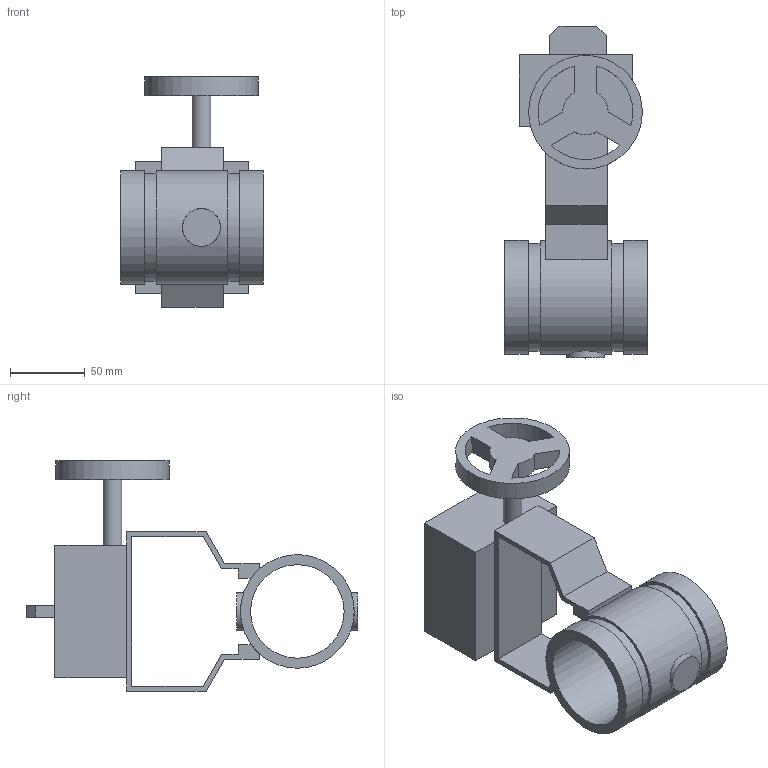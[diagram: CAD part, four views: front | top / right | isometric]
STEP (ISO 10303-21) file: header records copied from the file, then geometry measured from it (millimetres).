
FILE_DESCRIPTION(/* description */ ('VIC FIRELOCK BUTTERFLY VALVE SERIES 707 W/ WEATHERPROOF ACTUATOR FOR 300 PSI','CAx-IF Rec.Pracs.---Representation and Presentation of Product Manufacturing Information (PMI)---4.0---2014-10-13'),/* implementation_level */ '2;1');
FILE_NAME(/* name */ 'C:\Users\Vjadhav\AppData\Roaming\Autodesk\ApplicationPlugins\Back Up\Victaulic_FP-FireLock_Valve Butterfly_Series 707 (OGS)-Closed\Victaulic_FP-FireLock_Valve Butterfly_Series 707 (OGS)-Closed_02.5 (76.1) (65).stp',/* time_stamp */ '2020-07-22T11:31:24+05:00',/* author */ ('kkamble'),/* organization */ ('Victaulic'),/* preprocessor_version */ 'ST-DEVELOPER v17.2',/* originating_system */ 'Autodesk Inventor 2019',/* authorisation */ '');
FILE_SCHEMA (('AP242_MANAGED_MODEL_BASED_3D_ENGINEERING_MIM_LF { 1 0 10303 442 1 1 4 }'));
Length unit declared in the file: inch
Products named in the file (1): 707-02.5 (76.1)
Bounding box: 95.76 x 222.5 x 154.43 mm (x, y, z)
Volume: 559965.7 mm3; surface area: 111928 mm2
Topology: 1 solids, 1 shells, 71 faces, 194 edges, 133 vertices
Faces by surface type: plane 55, cylinder 16
Full cylindrical faces by diameter (mm): 12.624 x1, 25.4 x2, 62.713 x1, 72.263 x2, 76.2 x4
Entity records: 2591 total; most frequent: CARTESIAN_POINT 485, DIRECTION 407, ORIENTED_EDGE 388, EDGE_CURVE 194, LINE 141, VECTOR 141, VERTEX_POINT 133, AXIS2_PLACEMENT_3D 133
